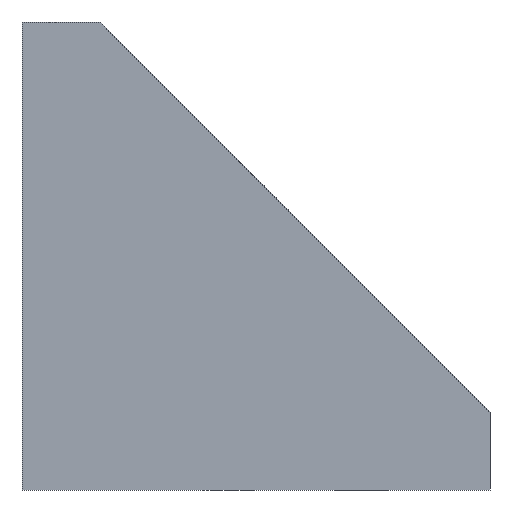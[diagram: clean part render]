
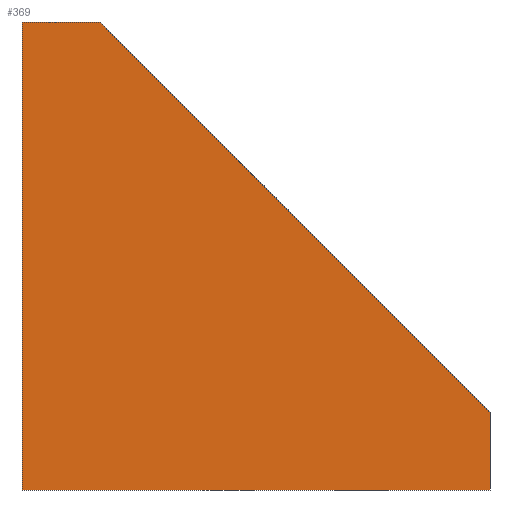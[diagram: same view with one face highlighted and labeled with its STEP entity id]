
A CAD part, left-side view. The second image highlights one B-rep face of the part: STEP entity #369.
In plain terms, the highlighted planar face has unit normal (-1, 0, 0).
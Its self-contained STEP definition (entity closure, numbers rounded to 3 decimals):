
#81=ORIENTED_EDGE('',*,*,#171,.T.);
#82=ORIENTED_EDGE('',*,*,#166,.F.);
#83=ORIENTED_EDGE('',*,*,#140,.F.);
#84=ORIENTED_EDGE('',*,*,#164,.F.);
#85=ORIENTED_EDGE('',*,*,#155,.F.);
#140=EDGE_CURVE('',#190,#191,#220,.T.);
#155=EDGE_CURVE('',#204,#205,#231,.T.);
#164=EDGE_CURVE('',#205,#190,#238,.T.);
#166=EDGE_CURVE('',#191,#212,#240,.T.);
#171=EDGE_CURVE('',#204,#212,#245,.T.);
#190=VERTEX_POINT('',#543);
#191=VERTEX_POINT('',#544);
#204=VERTEX_POINT('',#574);
#205=VERTEX_POINT('',#575);
#212=VERTEX_POINT('',#595);
#220=LINE('',#542,#262);
#231=LINE('',#573,#273);
#238=LINE('',#591,#280);
#240=LINE('',#594,#282);
#245=LINE('',#603,#287);
#262=VECTOR('',#439,1000.);
#273=VECTOR('',#462,1000.);
#280=VECTOR('',#475,1000.);
#282=VECTOR('',#479,1000.);
#287=VECTOR('',#488,1000.);
#309=EDGE_LOOP('',(#81,#82,#83,#84,#85));
#333=FACE_BOUND('',#309,.T.);
#353=PLANE('',#410);
#369=ADVANCED_FACE('',(#333),#353,.T.);
#410=AXIS2_PLACEMENT_3D('',#602,#486,#487);
#439=DIRECTION('',(0.,0.,1.));
#462=DIRECTION('',(0.,0.,-1.));
#475=DIRECTION('',(0.,1.,0.));
#479=DIRECTION('',(0.,-1.,0.));
#486=DIRECTION('',(-1.,0.,0.));
#487=DIRECTION('',(0.,0.,1.));
#488=DIRECTION('',(0.,0.707,0.707));
#542=CARTESIAN_POINT('',(-12.,0.,0.));
#543=CARTESIAN_POINT('',(-12.,0.,0.));
#544=CARTESIAN_POINT('',(-12.,0.,30.));
#573=CARTESIAN_POINT('',(-12.,-30.,5.));
#574=CARTESIAN_POINT('',(-12.,-30.,5.));
#575=CARTESIAN_POINT('',(-12.,-30.,0.));
#591=CARTESIAN_POINT('',(-12.,-30.,0.));
#594=CARTESIAN_POINT('',(-12.,0.,30.));
#595=CARTESIAN_POINT('',(-12.,-5.,30.));
#602=CARTESIAN_POINT('',(-12.,0.,0.));
#603=CARTESIAN_POINT('',(-12.,-30.,5.));
